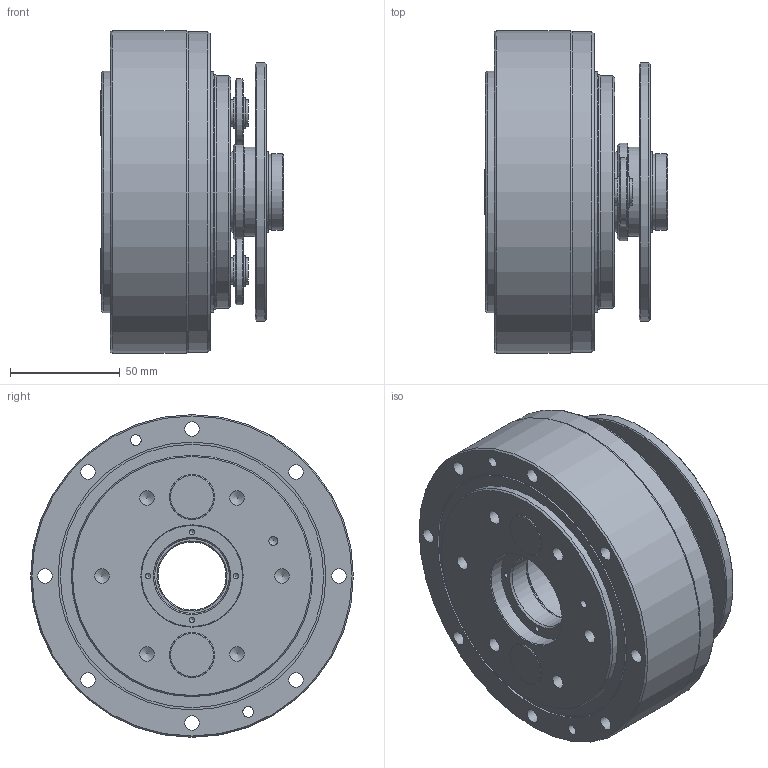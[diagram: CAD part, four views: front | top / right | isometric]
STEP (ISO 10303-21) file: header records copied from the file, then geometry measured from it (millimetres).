
FILE_DESCRIPTION((''),'2;1');
FILE_NAME('C:\Mike''s Jobs\4-MIKE-FROM-TH\Nabtesco\RV-Series\RV-10C.stp','2005-08-31T10:28:36',('Jeff Miles'),(''),'Autodesk Inventor 10','Autodesk Inventor 10','');
FILE_SCHEMA(('AUTOMOTIVE_DESIGN { 1 0 10303 214 1 1 1 1 }'));
Length unit declared in the file: millimetre
Products named in the file (7): RV-10C; RV-10C-Body; RV-10C-Ball1; RV-10C-Ball2; ISO 4762  (Regular Thread) M10 x 16; RV-10C-Gear; RV-10C-StandardCenterGear
Assembly tree (68 placements, depth 2):
  RV-10C
    RV-10C-Body
    RV-10C-Ball1  x36
    RV-10C-Ball2  x24
    ISO 4762  (Regular Thread) M10 x 16  x4
    RV-10C-Gear  x2
    RV-10C-StandardCenterGear
Bounding box: 83.47 x 147 x 147 mm (x, y, z)
Volume: 850246.7 mm3; surface area: 135274.2 mm2
Topology: 68 solids, 68 shells, 333 faces, 760 edges, 483 vertices
Faces by surface type: plane 78, bspline 75, cylinder 66, sphere 60, cone 35, torus 19
Full cylindrical faces by diameter (mm): 10 x4, 12 x4, 14 x4, 16 x4, 31 x3, 34 x1, 34.4 x2, 35 x3, 37 x2, 39 x1, 40.8 x1, 42 x1, 43 x1, 44 x1, 44.74 x1, 46 x1, 47 x1, 106 x1, 107 x1, 109.39 x1, 110 x1, 118 x1, 120 x2, 122 x1, 123.999 x1, 146 x1, 147 x1
Entity records: 6883 total; most frequent: CARTESIAN_POINT 2264, DIRECTION 1004, ORIENTED_EDGE 618, AXIS2_PLACEMENT_3D 480, EDGE_LOOP 406, EDGE_CURVE 309, CIRCLE 257, VERTEX_POINT 255
